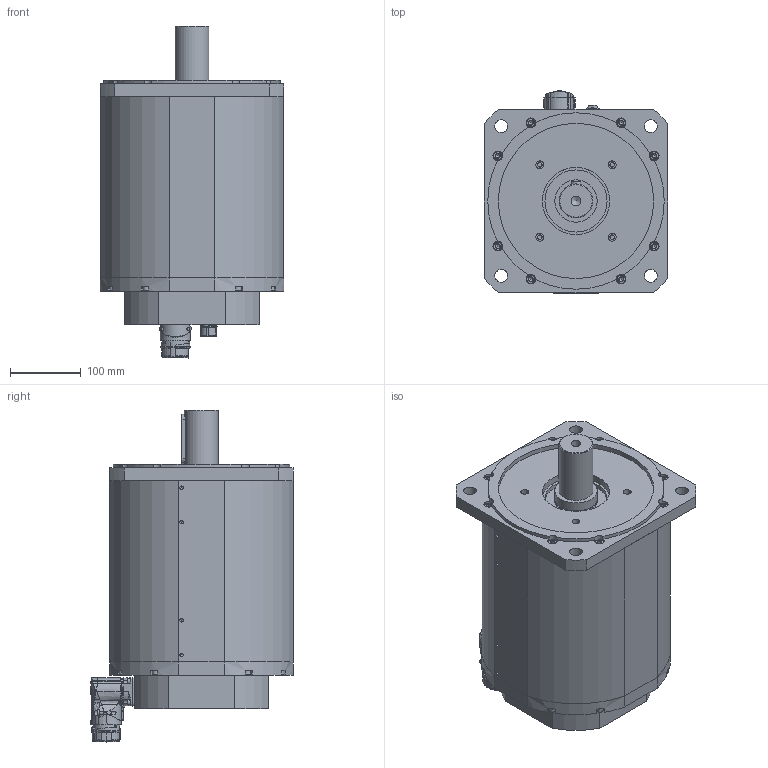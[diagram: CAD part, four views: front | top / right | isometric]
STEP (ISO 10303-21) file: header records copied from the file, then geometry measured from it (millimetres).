
FILE_DESCRIPTION(/* description */ (''),/* implementation_level */ '2;1');
FILE_NAME(/* name */ 'C:\Users\Public\Documents\Autodesk\Inventor LT 2014\Workspace\Motori Sito WEB\TG_7\NEW TG_7\DSM5_72_x099 .stp',/* time_stamp */ '2021-10-28T15:01:58+02:00',/* author */ ('marcor'),/* organization */ (''),/* preprocessor_version */ 'ST-DEVELOPER v15.2',/* originating_system */ 'Autodesk Inventor LT ',/* authorisation */ '');
FILE_SCHEMA (('AUTOMOTIVE_DESIGN { 1 0 10303 214 3 1 1 }'));
Products named in the file (1): DSM5_72_x099 
Bounding box: 260 x 286.55 x 470.4 mm (x, y, z)
Volume: 18294768.6 mm3; surface area: 795908.5 mm2
Topology: 24 solids, 33 shells, 1874 faces, 4868 edges, 3186 vertices
Faces by surface type: plane 822, cylinder 409, cone 390, bspline 137, torus 99, sphere 17
Full cylindrical faces by diameter (mm): 1.2 x12, 2 x2, 2.224 x4, 2.5 x4, 2.88 x4, 3.26 x4, 3.6 x5, 4 x5, 4.5 x1, 4.8 x4, 4.917 x20, 5.4 x1, 5.5 x1, 5.9 x1, 6 x12, 6.5 x16, 6.647 x8, 7 x4, 8 x11, 8.376 x2, 8.5 x9, 10 x12, 11 x8, 13 x8, 13.5 x8, 13.835 x1, 15.2 x1, 17.4 x2, 18 x5, 20 x1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
Entity records: 62166 total; most frequent: CARTESIAN_POINT 18595, ORIENTED_EDGE 8518, DIRECTION 8274, EDGE_CURVE 4259, AXIS2_PLACEMENT_3D 3275, VERTEX_POINT 3019, EDGE_LOOP 2522, ADVANCED_FACE 1874
